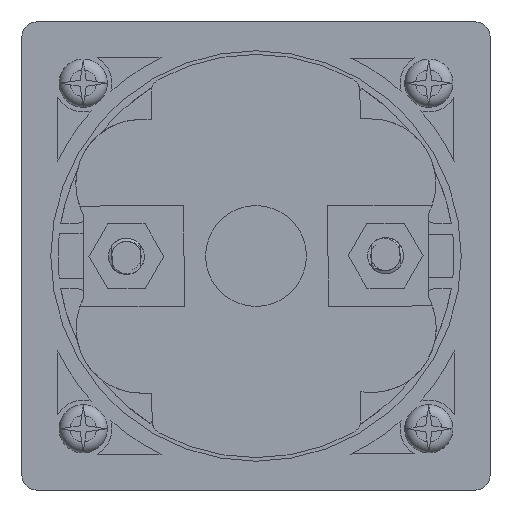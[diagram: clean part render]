
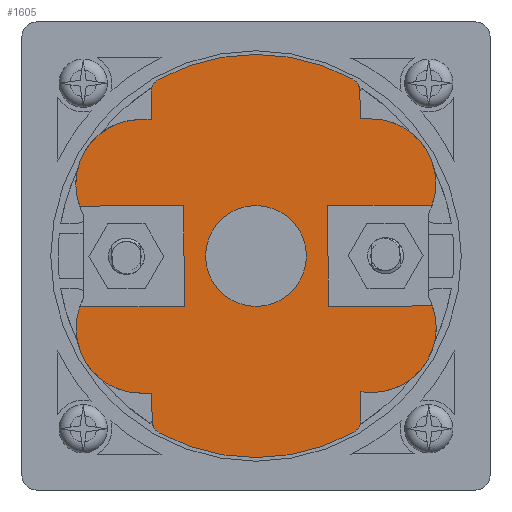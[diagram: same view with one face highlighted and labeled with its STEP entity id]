
A CAD part, front view. The second image highlights one B-rep face of the part: STEP entity #1605.
In plain terms, the highlighted planar face has unit normal (0, -1, 0).
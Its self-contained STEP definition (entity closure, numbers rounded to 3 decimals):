
#703=FACE_BOUND('',#3380,.T.);
#704=FACE_BOUND('',#3381,.T.);
#1605=ADVANCED_FACE('',(#703,#704),#2201,.F.);
#2201=PLANE('',#13887);
#3380=EDGE_LOOP('',(#5872,#5873,#5874,#5875,#5876,#5877,#5878,#5879,#5880,
#5881,#5882,#5883,#5884,#5885,#5886,#5887,#5888,#5889,#5890,#5891,#5892,
#5893,#5894,#5895,#5896));
#3381=EDGE_LOOP('',(#5897));
#4182=CIRCLE('',#13875,9.);
#4183=CIRCLE('',#13876,2.);
#4184=CIRCLE('',#13877,28.);
#4185=CIRCLE('',#13878,2.);
#4186=CIRCLE('',#13879,8.96);
#4187=CIRCLE('',#13880,9.);
#4188=CIRCLE('',#13881,9.);
#4189=CIRCLE('',#13882,2.);
#4190=CIRCLE('',#13883,28.);
#4191=CIRCLE('',#13884,2.);
#4192=CIRCLE('',#13885,9.);
#4193=CIRCLE('',#13886,7.);
#5872=ORIENTED_EDGE('',*,*,#10382,.F.);
#5873=ORIENTED_EDGE('',*,*,#10383,.T.);
#5874=ORIENTED_EDGE('',*,*,#10384,.T.);
#5875=ORIENTED_EDGE('',*,*,#10385,.T.);
#5876=ORIENTED_EDGE('',*,*,#10386,.T.);
#5877=ORIENTED_EDGE('',*,*,#10387,.T.);
#5878=ORIENTED_EDGE('',*,*,#10388,.T.);
#5879=ORIENTED_EDGE('',*,*,#10389,.T.);
#5880=ORIENTED_EDGE('',*,*,#10390,.T.);
#5881=ORIENTED_EDGE('',*,*,#10391,.T.);
#5882=ORIENTED_EDGE('',*,*,#10392,.T.);
#5883=ORIENTED_EDGE('',*,*,#10393,.F.);
#5884=ORIENTED_EDGE('',*,*,#10394,.F.);
#5885=ORIENTED_EDGE('',*,*,#10395,.F.);
#5886=ORIENTED_EDGE('',*,*,#10396,.T.);
#5887=ORIENTED_EDGE('',*,*,#10397,.T.);
#5888=ORIENTED_EDGE('',*,*,#10398,.T.);
#5889=ORIENTED_EDGE('',*,*,#10399,.T.);
#5890=ORIENTED_EDGE('',*,*,#10400,.T.);
#5891=ORIENTED_EDGE('',*,*,#10401,.T.);
#5892=ORIENTED_EDGE('',*,*,#10402,.T.);
#5893=ORIENTED_EDGE('',*,*,#10403,.T.);
#5894=ORIENTED_EDGE('',*,*,#10404,.T.);
#5895=ORIENTED_EDGE('',*,*,#10405,.F.);
#5896=ORIENTED_EDGE('',*,*,#10406,.F.);
#5897=ORIENTED_EDGE('',*,*,#10407,.F.);
#8859=VERTEX_POINT('',#23033);
#8860=VERTEX_POINT('',#23034);
#8861=VERTEX_POINT('',#23036);
#8862=VERTEX_POINT('',#23038);
#8863=VERTEX_POINT('',#23040);
#8864=VERTEX_POINT('',#23042);
#8865=VERTEX_POINT('',#23044);
#8866=VERTEX_POINT('',#23046);
#8867=VERTEX_POINT('',#23048);
#8868=VERTEX_POINT('',#23050);
#8869=VERTEX_POINT('',#23052);
#8870=VERTEX_POINT('',#23054);
#8871=VERTEX_POINT('',#23056);
#8872=VERTEX_POINT('',#23058);
#8873=VERTEX_POINT('',#23060);
#8874=VERTEX_POINT('',#23062);
#8875=VERTEX_POINT('',#23064);
#8876=VERTEX_POINT('',#23066);
#8877=VERTEX_POINT('',#23068);
#8878=VERTEX_POINT('',#23070);
#8879=VERTEX_POINT('',#23072);
#8880=VERTEX_POINT('',#23074);
#8881=VERTEX_POINT('',#23076);
#8882=VERTEX_POINT('',#23078);
#8883=VERTEX_POINT('',#23080);
#8884=VERTEX_POINT('',#23083);
#10382=EDGE_CURVE('',#8859,#8860,#11899,.T.);
#10383=EDGE_CURVE('',#8859,#8861,#4182,.T.);
#10384=EDGE_CURVE('',#8861,#8862,#11900,.T.);
#10385=EDGE_CURVE('',#8862,#8863,#11901,.T.);
#10386=EDGE_CURVE('',#8863,#8864,#4183,.T.);
#10387=EDGE_CURVE('',#8864,#8865,#4184,.T.);
#10388=EDGE_CURVE('',#8865,#8866,#4185,.T.);
#10389=EDGE_CURVE('',#8866,#8867,#11902,.T.);
#10390=EDGE_CURVE('',#8867,#8868,#4186,.T.);
#10391=EDGE_CURVE('',#8868,#8869,#11903,.T.);
#10392=EDGE_CURVE('',#8869,#8870,#4187,.T.);
#10393=EDGE_CURVE('',#8871,#8870,#11904,.T.);
#10394=EDGE_CURVE('',#8872,#8871,#11905,.T.);
#10395=EDGE_CURVE('',#8873,#8872,#11906,.T.);
#10396=EDGE_CURVE('',#8873,#8874,#4188,.T.);
#10397=EDGE_CURVE('',#8874,#8875,#11907,.T.);
#10398=EDGE_CURVE('',#8875,#8876,#11908,.T.);
#10399=EDGE_CURVE('',#8876,#8877,#4189,.T.);
#10400=EDGE_CURVE('',#8877,#8878,#4190,.T.);
#10401=EDGE_CURVE('',#8878,#8879,#4191,.T.);
#10402=EDGE_CURVE('',#8879,#8880,#11909,.T.);
#10403=EDGE_CURVE('',#8880,#8881,#11910,.T.);
#10404=EDGE_CURVE('',#8881,#8882,#4192,.T.);
#10405=EDGE_CURVE('',#8883,#8882,#11911,.T.);
#10406=EDGE_CURVE('',#8860,#8883,#11912,.T.);
#10407=EDGE_CURVE('',#8884,#8884,#4193,.T.);
#11899=LINE('',#23032,#12838);
#11900=LINE('',#23037,#12839);
#11901=LINE('',#23039,#12840);
#11902=LINE('',#23047,#12841);
#11903=LINE('',#23051,#12842);
#11904=LINE('',#23055,#12843);
#11905=LINE('',#23057,#12844);
#11906=LINE('',#23059,#12845);
#11907=LINE('',#23063,#12846);
#11908=LINE('',#23065,#12847);
#11909=LINE('',#23073,#12848);
#11910=LINE('',#23075,#12849);
#11911=LINE('',#23079,#12850);
#11912=LINE('',#23081,#12851);
#12838=VECTOR('',#15989,1.);
#12839=VECTOR('',#15992,1.);
#12840=VECTOR('',#15993,1.);
#12841=VECTOR('',#16000,1.);
#12842=VECTOR('',#16003,1.);
#12843=VECTOR('',#16006,1.);
#12844=VECTOR('',#16007,1.);
#12845=VECTOR('',#16008,1.);
#12846=VECTOR('',#16011,1.);
#12847=VECTOR('',#16012,1.);
#12848=VECTOR('',#16019,1.);
#12849=VECTOR('',#16020,1.);
#12850=VECTOR('',#16023,1.);
#12851=VECTOR('',#16024,1.);
#13875=AXIS2_PLACEMENT_3D('',#23035,#15990,#15991);
#13876=AXIS2_PLACEMENT_3D('',#23041,#15994,#15995);
#13877=AXIS2_PLACEMENT_3D('',#23043,#15996,#15997);
#13878=AXIS2_PLACEMENT_3D('',#23045,#15998,#15999);
#13879=AXIS2_PLACEMENT_3D('',#23049,#16001,#16002);
#13880=AXIS2_PLACEMENT_3D('',#23053,#16004,#16005);
#13881=AXIS2_PLACEMENT_3D('',#23061,#16009,#16010);
#13882=AXIS2_PLACEMENT_3D('',#23067,#16013,#16014);
#13883=AXIS2_PLACEMENT_3D('',#23069,#16015,#16016);
#13884=AXIS2_PLACEMENT_3D('',#23071,#16017,#16018);
#13885=AXIS2_PLACEMENT_3D('',#23077,#16021,#16022);
#13886=AXIS2_PLACEMENT_3D('',#23082,#16025,#16026);
#13887=AXIS2_PLACEMENT_3D('',#23084,#16027,#16028);
#15989=DIRECTION('',(1.,0.,0.003));
#15990=DIRECTION('',(0.,-1.,0.));
#15991=DIRECTION('',(-0.89,0.,0.456));
#15992=DIRECTION('',(1.,0.,0.003));
#15993=DIRECTION('',(0.003,0.,-1.));
#15994=DIRECTION('',(0.,-1.,0.));
#15995=DIRECTION('',(1.,0.,0.003));
#15996=DIRECTION('',(0.,-1.,0.));
#15997=DIRECTION('',(1.,0.,0.003));
#15998=DIRECTION('',(0.,-1.,0.));
#15999=DIRECTION('',(1.,0.,0.003));
#16000=DIRECTION('',(-0.003,0.,1.));
#16001=DIRECTION('',(0.,-1.,0.));
#16002=DIRECTION('',(0.,0.,-1.));
#16003=DIRECTION('',(1.,0.,0.003));
#16004=DIRECTION('',(0.,-1.,0.));
#16005=DIRECTION('',(0.,0.,-1.));
#16006=DIRECTION('',(1.,0.,0.003));
#16007=DIRECTION('',(0.003,0.,-1.));
#16008=DIRECTION('',(-1.,0.,-0.003));
#16009=DIRECTION('',(0.,-1.,0.));
#16010=DIRECTION('',(1.,0.,0.003));
#16011=DIRECTION('',(-1.,0.,-0.003));
#16012=DIRECTION('',(-0.003,0.,1.));
#16013=DIRECTION('',(0.,-1.,0.));
#16014=DIRECTION('',(1.,0.,0.003));
#16015=DIRECTION('',(0.,-1.,0.));
#16016=DIRECTION('',(1.,0.,0.003));
#16017=DIRECTION('',(0.,-1.,0.));
#16018=DIRECTION('',(1.,0.,0.003));
#16019=DIRECTION('',(0.003,0.,-1.));
#16020=DIRECTION('',(-1.,0.,-0.003));
#16021=DIRECTION('',(0.,-1.,0.));
#16022=DIRECTION('',(-1.,0.,-0.003));
#16023=DIRECTION('',(-1.,0.,-0.003));
#16024=DIRECTION('',(-0.003,0.,1.));
#16025=DIRECTION('',(0.,-1.,0.));
#16026=DIRECTION('',(-1.,0.,-0.003));
#16027=DIRECTION('',(0.,1.,0.));
#16028=DIRECTION('',(0.,0.,1.));
#23032=CARTESIAN_POINT('',(-34.164,-40.6,-7.088));
#23033=CARTESIAN_POINT('',(-24.468,-40.6,-7.063));
#23034=CARTESIAN_POINT('',(-9.982,-40.6,-7.026));
#23035=CARTESIAN_POINT('',(-15.974,-40.6,-10.041));
#23036=CARTESIAN_POINT('',(-15.951,-40.6,-19.041));
#23037=CARTESIAN_POINT('',(23.753,-40.6,-18.934));
#23038=CARTESIAN_POINT('',(-14.451,-40.6,-19.037));
#23039=CARTESIAN_POINT('',(-14.451,-40.6,-19.037));
#23040=CARTESIAN_POINT('',(-14.441,-40.6,-22.835));
#23041=CARTESIAN_POINT('',(-12.441,-40.6,-22.83));
#23042=CARTESIAN_POINT('',(-13.398,-40.6,-24.586));
#23043=CARTESIAN_POINT('',(0.,-40.6,0.));
#23044=CARTESIAN_POINT('',(13.525,-40.6,-24.517));
#23045=CARTESIAN_POINT('',(12.558,-40.6,-22.766));
#23046=CARTESIAN_POINT('',(14.558,-40.6,-22.761));
#23047=CARTESIAN_POINT('',(14.558,-40.6,-22.761));
#23048=CARTESIAN_POINT('',(14.548,-40.6,-18.837));
#23049=CARTESIAN_POINT('',(16.02,-40.6,-9.999));
#23050=CARTESIAN_POINT('',(15.978,-40.6,-18.959));
#23051=CARTESIAN_POINT('',(23.752,-40.6,-18.938));
#23052=CARTESIAN_POINT('',(16.119,-40.6,-18.958));
#23053=CARTESIAN_POINT('',(16.026,-40.6,-9.959));
#23054=CARTESIAN_POINT('',(24.503,-40.6,-6.937));
#23055=CARTESIAN_POINT('',(10.018,-40.6,-6.974));
#23056=CARTESIAN_POINT('',(10.018,-40.6,-6.974));
#23057=CARTESIAN_POINT('',(9.982,-40.6,7.026));
#23058=CARTESIAN_POINT('',(9.982,-40.6,7.026));
#23059=CARTESIAN_POINT('',(34.164,-40.6,7.088));
#23060=CARTESIAN_POINT('',(24.467,-40.6,7.063));
#23061=CARTESIAN_POINT('',(15.974,-40.6,10.041));
#23062=CARTESIAN_POINT('',(15.951,-40.6,19.041));
#23063=CARTESIAN_POINT('',(15.951,-40.6,19.041));
#23064=CARTESIAN_POINT('',(14.451,-40.6,19.037));
#23065=CARTESIAN_POINT('',(14.451,-40.6,19.037));
#23066=CARTESIAN_POINT('',(14.441,-40.6,22.835));
#23067=CARTESIAN_POINT('',(12.441,-40.6,22.83));
#23068=CARTESIAN_POINT('',(13.398,-40.6,24.586));
#23069=CARTESIAN_POINT('',(0.,-40.6,0.));
#23070=CARTESIAN_POINT('',(-13.525,-40.6,24.517));
#23071=CARTESIAN_POINT('',(-12.558,-40.6,22.766));
#23072=CARTESIAN_POINT('',(-14.558,-40.6,22.761));
#23073=CARTESIAN_POINT('',(-14.558,-40.6,22.761));
#23074=CARTESIAN_POINT('',(-14.549,-40.6,18.963));
#23075=CARTESIAN_POINT('',(-14.549,-40.6,18.963));
#23076=CARTESIAN_POINT('',(-16.049,-40.6,18.959));
#23077=CARTESIAN_POINT('',(-16.026,-40.6,9.959));
#23078=CARTESIAN_POINT('',(-24.503,-40.6,6.937));
#23079=CARTESIAN_POINT('',(-10.018,-40.6,6.974));
#23080=CARTESIAN_POINT('',(-10.018,-40.6,6.974));
#23081=CARTESIAN_POINT('',(-9.982,-40.6,-7.026));
#23082=CARTESIAN_POINT('',(0.,-40.6,0.));
#23083=CARTESIAN_POINT('',(-7.,-40.6,-0.018));
#23084=CARTESIAN_POINT('',(23.741,-40.6,-14.593));
